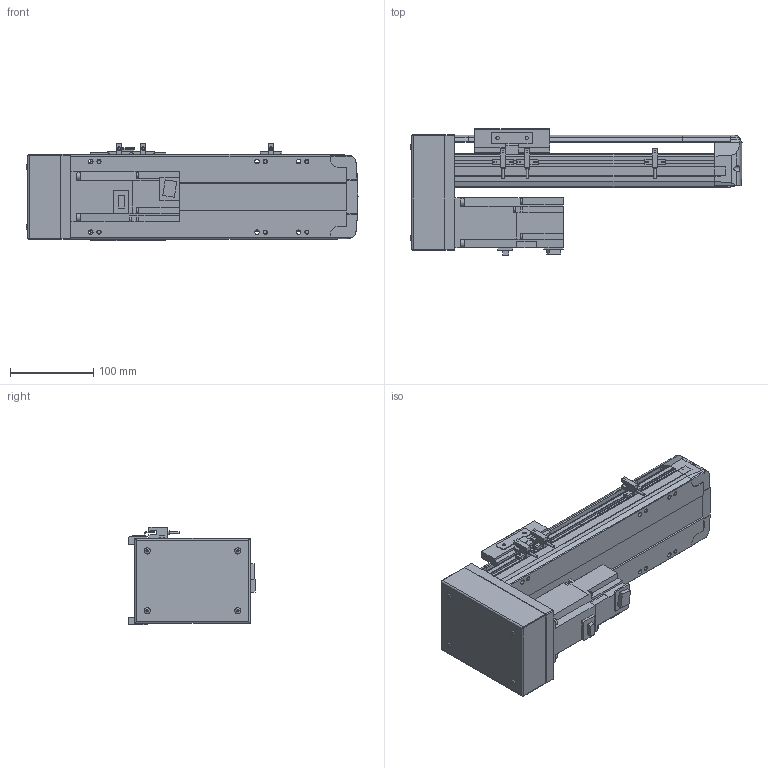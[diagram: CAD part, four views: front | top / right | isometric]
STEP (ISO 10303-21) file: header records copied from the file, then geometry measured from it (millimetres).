
FILE_DESCRIPTION(/* description */ ('STEP AP214'),/* implementation_level */ '2;1');
FILE_NAME(/* name */ 'PSS120-L10-S150-BM-T40-C1-N(0)',/* time_stamp */ '2022-06-06T02:25:56+02:00',/* author */ ('License CC BY-ND 4.0'),/* organization */ ('CADENAS'),/* preprocessor_version */ 'ST-DEVELOPER v18.102',/* originating_system */ 'PARTsolutions',/* authorisation */ ' ');
FILE_SCHEMA (('AUTOMOTIVE_DESIGN {1 0 10303 214 3 1 1}'));
Length unit declared in the file: millimetre
Products named in the file (8): PSS120-L10-S150-BM-T40-C1-N(0); PSS120-S150-BM-N_S; T40-p1; PSS120BM-N_h; PSS120-N_sensor; PSS120-BM-C1-N_sl; PSS120-N_Q; PSS120-S150-BM-C1-N_body
Assembly tree (9 placements, depth 2):
  PSS120-L10-S150-BM-T40-C1-N(0)
    PSS120-S150-BM-N_S
    T40-p1
    PSS120BM-N_h
    PSS120-N_sensor  x3
    PSS120-BM-C1-N_sl
    PSS120-N_Q
    PSS120-S150-BM-C1-N_body
Bounding box: 399.35 x 151.8 x 117.7 mm (x, y, z)
Volume: 2300282.8 mm3; surface area: 365335 mm2
Topology: 9 solids, 9 shells, 793 faces, 2141 edges, 1422 vertices
Faces by surface type: plane 562, cylinder 213, cone 14, sphere 4
Full cylindrical faces by diameter (mm): 2.8 x3, 4 x4, 4.134 x10, 4.4 x2, 4.5 x4, 4.6 x3, 5 x6, 5.5 x13, 7 x2, 7.4 x4, 8 x4, 8.5 x10, 14 x1, 28 x1, 32 x2, 50 x1
Entity records: 21419 total; most frequent: CARTESIAN_POINT 3878, DIRECTION 3557, ORIENTED_EDGE 3514, EDGE_CURVE 1757, LINE 1275, VECTOR 1275, VERTEX_POINT 1214, AXIS2_PLACEMENT_3D 1141
